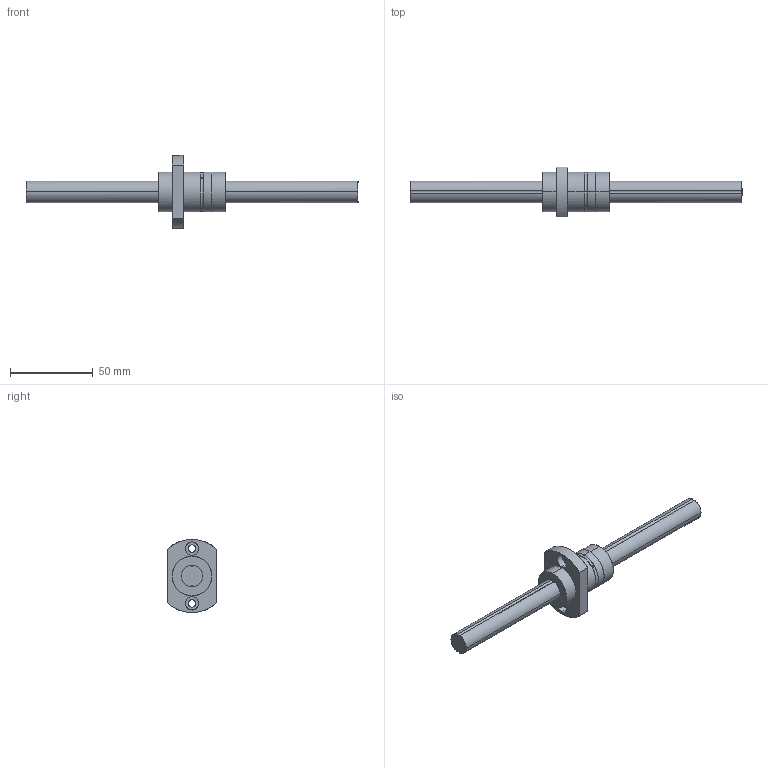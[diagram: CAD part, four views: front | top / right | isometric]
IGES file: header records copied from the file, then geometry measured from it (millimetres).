
Global section: file name: No Iges File Name specified; native system: AutoDesk Inventor R11.0; preprocessor: AutoDesk Inventor Iges Exporter R11.0; author: No Author specified; organization: No Organization specified; date: 20150223.133603; units: millimetre
Bounding box: 200 x 30 x 43.98 mm (x, y, z)
Surface area: 16014 mm2 (no closed solid volume)
Topology: 0 solids, 0 shells, 47 faces, 310 edges, 310 vertices
Faces by surface type: bspline 47
